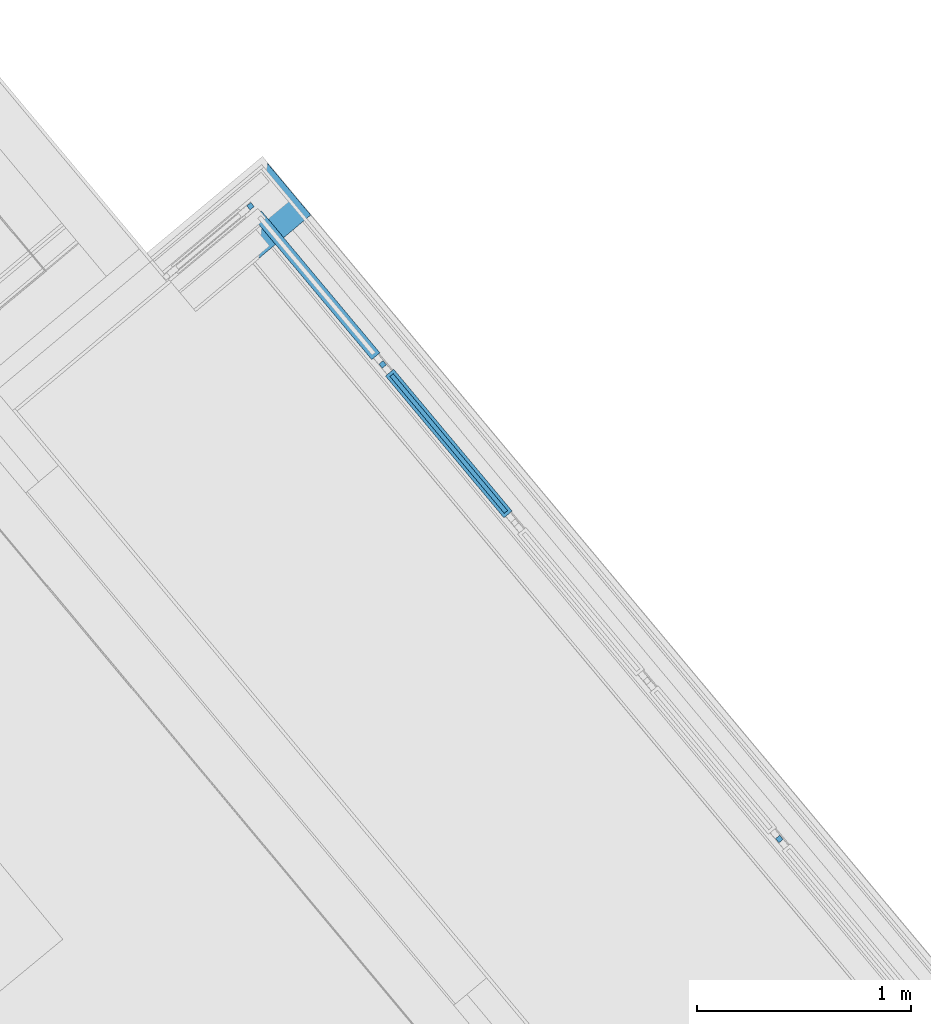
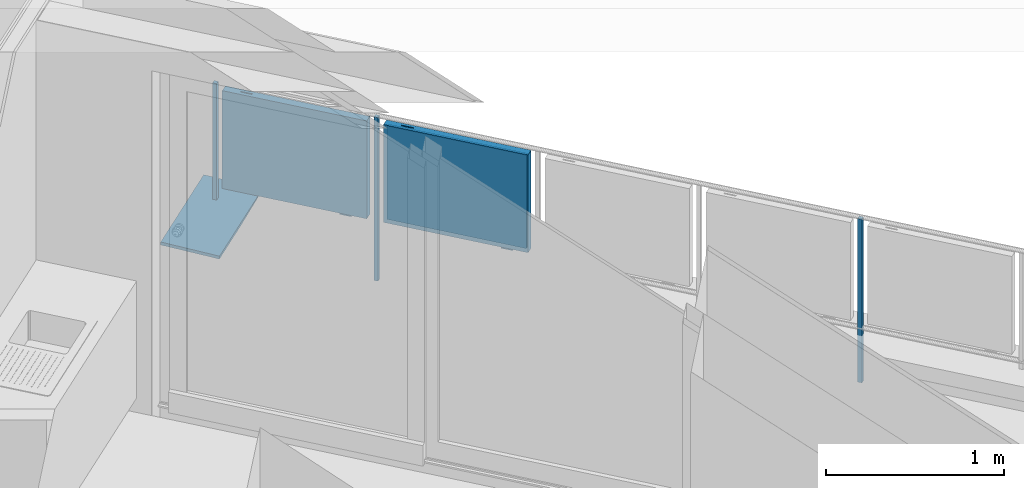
# One storey, part 39 of 53: 7 building element parts, 2 elements without a shape of their own.
"""IFC4 building model written with IfcOpenShell, lengths in metres."""

from ifc_helpers import new_model, entity, si_unit, converted_unit, derived_unit, direction, frame, origin_with_axes, place, context, subcontext, project, spatial, polygons, material, type_object, element, aggregate, save


model = new_model("IFC4")

# Units and contexts
model_context = context("Model", 3, precision=1e-05, world=origin_with_axes(), true_north=direction((0.0, 1.0)))
body_context = subcontext(model_context, "Body", "Model", "MODEL_VIEW")
ifc_project = project(units=[si_unit("LENGTHUNIT", "METRE"), si_unit("AREAUNIT", "SQUARE_METRE"), si_unit("VOLUMEUNIT", "CUBIC_METRE"), converted_unit("PLANEANGLEUNIT", "DEGREE", entity("IfcPlaneAngleMeasure", 0.0174532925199), si_unit("PLANEANGLEUNIT", "RADIAN"), dimensions=[0, 0, 0, 0, 0, 0, 0]), converted_unit("TIMEUNIT", "Year", entity("IfcTimeMeasure", 31556926.0), si_unit("TIMEUNIT", "SECOND"), dimensions=[0, 0, 1, 0, 0, 0, 0]), si_unit("MASSUNIT", "GRAM", prefix="KILO"), si_unit("THERMODYNAMICTEMPERATUREUNIT", "DEGREE_CELSIUS"), si_unit("LUMINOUSINTENSITYUNIT", "LUMEN"), si_unit("ENERGYUNIT", "JOULE", prefix="MEGA"), derived_unit("THERMALCONDUCTANCEUNIT", [(si_unit("POWERUNIT", "WATT"), 1), (si_unit("LENGTHUNIT", "METRE"), -1), (si_unit("THERMODYNAMICTEMPERATUREUNIT", "KELVIN"), -1)]), derived_unit("SPECIFICHEATCAPACITYUNIT", [(si_unit("ENERGYUNIT", "JOULE"), 1), (si_unit("MASSUNIT", "GRAM", prefix="KILO"), -1), (si_unit("THERMODYNAMICTEMPERATUREUNIT", "KELVIN"), -1)]), derived_unit("MASSDENSITYUNIT", [(si_unit("MASSUNIT", "GRAM", prefix="KILO"), 1), (si_unit("VOLUMEUNIT", "CUBIC_METRE"), -1)])], contexts=[model_context])

# Site, building, storey
site_placement = place(None, frame((-0.00153261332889, -0.00661245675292, 0.0), z_axis=(0.0, 0.0, 1.0), x_axis=(1.0, 0.0, 0.0)))
site = spatial("IfcSite", under=ifc_project, at=site_placement, Name="Gelände", CompositionType="ELEMENT")
building_placement = place(site_placement, origin_with_axes())
building = spatial("IfcBuilding", under=site, at=building_placement, Name="Gebäude", CompositionType="ELEMENT")
storey_placement = place(building_placement, frame((0.0, 0.0, 2.74), z_axis=(0.0, 0.0, 1.0), x_axis=(1.0, 0.0, 0.0)))
storey = spatial("IfcBuildingStorey", under=building, at=storey_placement, Name="OG1", CompositionType="ELEMENT", Elevation=2.74)

# Wall, building element part
wall_type = type_object("IfcWallType", Name="Bauteil - Attika Balkon 356 x 610", PredefinedType="NOTDEFINED")
wall_placement = place(storey_placement, frame((10.2419035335, 25.5187648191, -0.2), z_axis=(0.0, 0.0, 1.0), x_axis=(0.767364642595, 0.641210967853, 0.0)))
wall = element("IfcWall", 1, at=wall_placement, inside=storey, type_object=wall_type, Name="Wand-003", PredefinedType="NOTDEFINED")
ifc_material_1 = material(Name="Holzwerkstoff")
building_element_part_1_placement = place(wall_placement, origin_with_axes())
building_element_part_1 = element("IfcBuildingElementPart", 2, at=building_element_part_1_placement, material=ifc_material_1, Name="Holzwerkstoff", PredefinedType="NOTDEFINED", context=body_context, shape_type="Tessellation", body=[
    polygons([(0.701652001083, 0.239720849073, 0.595846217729), (0.701649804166, -0.112247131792, 0.595846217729), (0.701928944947, -0.111967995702, 0.587852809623), (0.701931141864, 0.239999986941, 0.587852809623), (0.701207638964, 0.23927649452, 0.608570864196), (0.592053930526, -0.111834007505, 0.584015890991), (0.651913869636, -0.11190700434, 0.586106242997), (0.0, -0.112247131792, 0.5958462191), (0.0, -0.111539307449, 0.575576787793), (0.350389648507, -0.111539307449, 0.575576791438), (0.471961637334, -0.111687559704, 0.579822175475), (0.532071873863, -0.111760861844, 0.581921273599), (0.651915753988, 0.189984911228, 0.586106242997), (0.0, 0.23999998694, 0.587852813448), (0.0, 0.23927649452, 0.608570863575), (0.592055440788, 0.13012497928, 0.584015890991), (0.0, 0.189984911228, 0.586106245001), (0.0, 0.13012497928, 0.584015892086), (0.0, 0.0701429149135, 0.581921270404), (0.0, 0.0100326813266, 0.579822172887), (0.471962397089, 0.0100326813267, 0.579822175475), (0.532073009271, 0.0701429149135, 0.581921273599)], [[[1, 2, 3, 4]], [[5, 2, 1]], [[6, 7, 3, 2, 8, 9, 10, 11, 12]], [[13, 4, 3, 7]], [[5, 1, 4, 14, 15]], [[2, 5, 15, 8]], [[6, 16, 13, 7]], [[15, 14, 17, 18, 19, 20, 9, 8]], [[21, 10, 9, 20]], [[11, 10, 21]], [[12, 11, 21, 22]], [[16, 6, 12, 22]], [[17, 14, 4, 13]], [[13, 16, 18, 17]], [[22, 19, 18, 16]], [[21, 20, 19, 22]]], closed=True),
])
aggregate(wall, [building_element_part_1])

# Space
space_placement = place(storey_placement, frame((9.48027034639, 24.9670510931, 0.22), z_axis=(0.0, 0.0, 1.0), x_axis=(0.641209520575, -0.76736585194, 0.0)))
space = spatial("IfcSpace", under=storey, at=space_placement, CompositionType="ELEMENT", PredefinedType="NOTDEFINED")

# Railing, building element parts
railing_type = type_object("IfcRailingType", Name="Geländerart", PredefinedType="NOTDEFINED")
railing_placement = place(space_placement, frame((5.69466912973, 0.0, 0.16), z_axis=(0.0, 0.0, 1.0), x_axis=(0.641209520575, 0.76736585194, 0.0)))
railing = element("IfcRailing", 3, at=railing_placement, inside=space, type_object=railing_type, Name="Geländer - 001", PredefinedType="NOTDEFINED")
ifc_material_2 = material(Name="Aluminium")
building_element_part_2_placement = place(railing_placement, origin_with_axes())
building_element_part_2 = element("IfcBuildingElementPart", 4, at=building_element_part_2_placement, material=ifc_material_2, Name="Aluminium", PredefinedType="NOTDEFINED", context=body_context, shape_type="Tessellation", body=[
    polygons([(-2.55954974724, 5.34420731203, -0.3), (-2.57873396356, 5.32817715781, -0.3), (-2.57873396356, 5.32817715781, 0.82), (-2.55954974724, 5.34420731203, 0.82), (-2.54351959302, 5.32502309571, -0.3), (-2.56270380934, 5.30899294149, -0.3), (-2.56270380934, 5.30899294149, 0.82), (-2.54351959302, 5.32502309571, 0.82)], [[[1, 2, 3, 4]], [[1, 5, 6, 2]], [[2, 6, 7, 3]], [[4, 3, 7, 8]], [[5, 1, 4, 8]], [[6, 5, 8, 7]]], closed=True),
])
building_element_part_3_placement = place(railing_placement, origin_with_axes())
building_element_part_3 = element("IfcBuildingElementPart", 5, at=building_element_part_3_placement, material=ifc_material_2, Name="Aluminium", PredefinedType="NOTDEFINED", context=body_context, shape_type="Tessellation", body=[
    polygons([(-0.0889101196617, 2.38744941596, -0.3), (-0.10809433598, 2.37141926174, -0.3), (-0.10809433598, 2.37141926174, 0.82), (-0.0889101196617, 2.38744941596, 0.82), (-0.0728799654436, 2.36826519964, -0.3), (-0.0920641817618, 2.35223504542, -0.3), (-0.0920641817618, 2.35223504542, 0.82), (-0.0728799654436, 2.36826519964, 0.82)], [[[1, 2, 3, 4]], [[1, 5, 6, 2]], [[2, 6, 7, 3]], [[4, 3, 7, 8]], [[5, 1, 4, 8]], [[6, 5, 8, 7]]], closed=True),
])
ifc_material_3 = material(Name="Profilit")
building_element_part_4_placement = place(railing_placement, origin_with_axes())
building_element_part_4 = element("IfcBuildingElementPart", 6, at=building_element_part_4_placement, material=ifc_material_3, Name="Profilit", PredefinedType="NOTDEFINED", context=body_context, shape_type="Tessellation", body=[
    polygons([(-1.90946215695, 4.53111962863, 0.135), (-1.37515905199, 3.89168807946, 0.135), (-1.37515905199, 3.89168807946, 0.775), (-1.90946215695, 4.53111962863, 0.775), (-1.35981167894, 3.90451220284, 0.135), (-1.8941147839, 4.543943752, 0.135), (-1.35981167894, 3.90451220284, 0.775), (-1.8941147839, 4.543943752, 0.775)], [[[1, 2, 3, 4]], [[5, 2, 1, 6]], [[7, 3, 2, 5]], [[4, 3, 7, 8]], [[1, 4, 8, 6]], [[7, 5, 6, 8]]], closed=True),
])
building_element_part_5_placement = place(railing_placement, origin_with_axes())
building_element_part_5 = element("IfcBuildingElementPart", 7, at=building_element_part_5_placement, material=ifc_material_2, Name="Aluminium", PredefinedType="NOTDEFINED", context=body_context, shape_type="Tessellation", body=[
    polygons([(-1.42390631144, 3.96172346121, 0.12), (-1.46879074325, 4.0154392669, 0.12), (-1.46879074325, 4.0154392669, 0.095), (-1.42390631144, 3.96172346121, 0.095), (-1.42006946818, 3.96492949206, 0.12), (-1.46495389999, 4.01864529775, 0.12), (-1.46495389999, 4.01864529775, 0.095), (-1.42006946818, 3.96492949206, 0.095)], [[[1, 2, 3, 4]], [[5, 6, 2, 1]], [[2, 6, 7, 3]], [[4, 3, 7, 8]], [[1, 4, 8, 5]], [[8, 7, 6, 5]]], closed=True),
    polygons([(-1.84920436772, 4.47070233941, 0.79), (-1.80431993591, 4.41698653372, 0.79), (-1.80431993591, 4.41698653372, 0.795), (-1.84920436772, 4.47070233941, 0.795), (-1.84536752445, 4.47390837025, 0.79), (-1.80048309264, 4.42019256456, 0.79), (-1.80048309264, 4.42019256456, 0.795), (-1.84536752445, 4.47390837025, 0.795)], [[[1, 2, 3, 4]], [[5, 6, 2, 1]], [[2, 6, 7, 3]], [[4, 3, 7, 8]], [[1, 4, 8, 5]], [[8, 7, 6, 5]]], closed=True),
    polygons([(-1.33868305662, 3.90261976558, 0.12), (-1.37705148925, 3.87055945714, 0.12), (-1.93059077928, 4.53301206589, 0.12), (-1.89222234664, 4.56507237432, 0.12), (-1.35150717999, 3.91796713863, 0.14), (-1.36301770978, 3.9083490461, 0.14), (-1.35981167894, 3.90451220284, 0.135), (-1.37515905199, 3.89168807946, 0.135), (-1.37836508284, 3.89552492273, 0.14), (-1.38987561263, 3.8859068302, 0.14), (-1.9177666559, 4.51766469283, 0.14), (-1.9177666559, 4.51766469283, 0.77), (-1.38987561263, 3.8859068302, 0.77), (-1.38987561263, 3.8859068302, 0.14), (-1.37705148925, 3.87055945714, 0.12), (-1.37705148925, 3.87055945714, 0.79), (-1.93059077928, 4.53301206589, 0.79), (-1.89222234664, 4.56507237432, 0.79), (-1.33868305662, 3.90261976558, 0.79), (-1.33868305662, 3.90261976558, 0.12), (-1.35150717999, 3.91796713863, 0.14), (-1.35150717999, 3.91796713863, 0.77), (-1.87939822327, 4.54972500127, 0.77), (-1.87939822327, 4.54972500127, 0.14), (-1.89090875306, 4.54010690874, 0.14), (-1.89090875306, 4.54010690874, 0.77), (-1.36301770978, 3.9083490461, 0.77), (-1.36301770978, 3.9083490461, 0.14), (-1.35981167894, 3.90451220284, 0.135), (-1.35981167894, 3.90451220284, 0.775), (-1.8941147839, 4.543943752, 0.775), (-1.8941147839, 4.543943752, 0.135), (-1.90946215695, 4.53111962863, 0.135), (-1.90946215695, 4.53111962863, 0.775), (-1.37515905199, 3.89168807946, 0.775), (-1.37515905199, 3.89168807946, 0.135), (-1.37836508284, 3.89552492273, 0.14), (-1.37836508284, 3.89552492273, 0.77), (-1.90625612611, 4.52728278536, 0.77), (-1.90625612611, 4.52728278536, 0.14)], [[[1, 2, 3, 4]], [[1, 5, 6, 7, 8, 9, 10, 2]], [[2, 10, 11, 12, 13, 14, 15, 16, 17, 3]], [[4, 3, 17, 18]], [[5, 1, 4, 18, 19, 20, 21, 22, 23, 24]], [[6, 5, 24, 25]], [[7, 6, 25, 26, 27, 28, 29, 30, 31, 32]], [[8, 7, 32, 33]], [[9, 8, 33, 34, 35, 36, 37, 38, 39, 40]], [[10, 9, 40, 11]], [[11, 40, 39, 12]], [[12, 39, 38, 13]], [[13, 38, 37, 14]], [[20, 15, 14, 37, 36, 29, 28, 21]], [[19, 16, 15, 20]], [[18, 17, 16, 19]], [[27, 22, 21, 28]], [[26, 23, 22, 27]], [[25, 24, 23, 26]], [[35, 30, 29, 36]], [[34, 31, 30, 35]], [[33, 32, 31, 34]]], closed=True),
])
building_element_part_6_placement = place(railing_placement, origin_with_axes())
building_element_part_6 = element("IfcBuildingElementPart", 8, at=building_element_part_6_placement, material=ifc_material_2, Name="Aluminium", PredefinedType="NOTDEFINED", context=body_context, shape_type="Tessellation", body=[
    polygons([(-1.94188984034, 4.60501783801, -0.3), (-1.96107405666, 4.58898768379, -0.3), (-1.96107405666, 4.58898768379, 0.82), (-1.94188984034, 4.60501783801, 0.82), (-1.92585968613, 4.58583362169, -0.3), (-1.94504390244, 4.56980346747, -0.3), (-1.94504390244, 4.56980346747, 0.82), (-1.92585968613, 4.58583362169, 0.82)], [[[1, 2, 3, 4]], [[1, 5, 6, 2]], [[2, 6, 7, 3]], [[4, 3, 7, 8]], [[5, 1, 4, 8]], [[6, 5, 8, 7]]], closed=True),
])
building_element_part_7_placement = place(railing_placement, origin_with_axes())
building_element_part_7 = element("IfcBuildingElementPart", 9, at=building_element_part_7_placement, material=ifc_material_2, Name="Aluminium", PredefinedType="NOTDEFINED", context=body_context, shape_type="Tessellation", body=[
    polygons([(-2.04156621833, 4.70091293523, 0.12), (-2.08645065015, 4.75462874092, 0.12), (-2.08645065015, 4.75462874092, 0.095), (-2.04156621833, 4.70091293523, 0.095), (-2.03772937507, 4.70411896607, 0.12), (-2.08261380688, 4.75783477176, 0.12), (-2.08261380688, 4.75783477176, 0.095), (-2.03772937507, 4.70411896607, 0.095)], [[[1, 2, 3, 4]], [[5, 6, 2, 1]], [[2, 6, 7, 3]], [[4, 3, 7, 8]], [[1, 4, 8, 5]], [[8, 7, 6, 5]]], closed=True),
    polygons([(-2.46686427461, 5.20989181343, 0.79), (-2.4219798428, 5.15617600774, 0.79), (-2.4219798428, 5.15617600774, 0.795), (-2.46686427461, 5.20989181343, 0.795), (-2.46302743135, 5.21309784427, 0.79), (-2.41814299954, 5.15938203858, 0.79), (-2.41814299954, 5.15938203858, 0.795), (-2.46302743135, 5.21309784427, 0.795)], [[[1, 2, 3, 4]], [[5, 6, 2, 1]], [[2, 6, 7, 3]], [[4, 3, 7, 8]], [[1, 4, 8, 5]], [[8, 7, 6, 5]]], closed=True),
    polygons([(-1.95634296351, 4.6418092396, 0.12), (-1.99471139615, 4.60974893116, 0.12), (-2.54825068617, 5.27220153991, 0.12), (-2.50988225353, 5.30426184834, 0.12), (-1.96916708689, 4.65715661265, 0.14), (-1.98067761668, 4.64753852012, 0.14), (-1.97747158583, 4.64370167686, 0.135), (-1.99281895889, 4.63087755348, 0.135), (-1.99602498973, 4.63471439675, 0.14), (-2.00753551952, 4.62509630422, 0.14), (-2.5354265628, 5.25685416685, 0.14), (-2.5354265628, 5.25685416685, 0.77), (-2.00753551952, 4.62509630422, 0.77), (-2.00753551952, 4.62509630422, 0.14), (-1.99471139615, 4.60974893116, 0.12), (-1.99471139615, 4.60974893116, 0.79), (-2.54825068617, 5.27220153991, 0.79), (-2.50988225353, 5.30426184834, 0.79), (-1.95634296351, 4.6418092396, 0.79), (-1.95634296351, 4.6418092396, 0.12), (-1.96916708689, 4.65715661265, 0.14), (-1.96916708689, 4.65715661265, 0.77), (-2.49705813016, 5.28891447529, 0.77), (-2.49705813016, 5.28891447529, 0.14), (-2.50856865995, 5.27929638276, 0.14), (-2.50856865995, 5.27929638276, 0.77), (-1.98067761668, 4.64753852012, 0.77), (-1.98067761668, 4.64753852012, 0.14), (-1.97747158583, 4.64370167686, 0.135), (-1.97747158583, 4.64370167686, 0.775), (-2.51177469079, 5.28313322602, 0.775), (-2.51177469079, 5.28313322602, 0.135), (-2.52712206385, 5.27030910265, 0.135), (-2.52712206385, 5.27030910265, 0.775), (-1.99281895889, 4.63087755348, 0.775), (-1.99281895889, 4.63087755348, 0.135), (-1.99602498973, 4.63471439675, 0.14), (-1.99602498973, 4.63471439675, 0.77), (-2.523916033, 5.26647225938, 0.77), (-2.523916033, 5.26647225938, 0.14)], [[[1, 2, 3, 4]], [[1, 5, 6, 7, 8, 9, 10, 2]], [[2, 10, 11, 12, 13, 14, 15, 16, 17, 3]], [[4, 3, 17, 18]], [[5, 1, 4, 18, 19, 20, 21, 22, 23, 24]], [[6, 5, 24, 25]], [[7, 6, 25, 26, 27, 28, 29, 30, 31, 32]], [[8, 7, 32, 33]], [[9, 8, 33, 34, 35, 36, 37, 38, 39, 40]], [[10, 9, 40, 11]], [[11, 40, 39, 12]], [[12, 39, 38, 13]], [[13, 38, 37, 14]], [[20, 15, 14, 37, 36, 29, 28, 21]], [[19, 16, 15, 20]], [[18, 17, 16, 19]], [[27, 22, 21, 28]], [[26, 23, 22, 27]], [[25, 24, 23, 26]], [[35, 30, 29, 36]], [[34, 31, 30, 35]], [[33, 32, 31, 34]]], closed=True),
])
aggregate(railing, [building_element_part_2, building_element_part_3, building_element_part_4, building_element_part_5, building_element_part_6, building_element_part_7])

save(model, "model.ifc")
